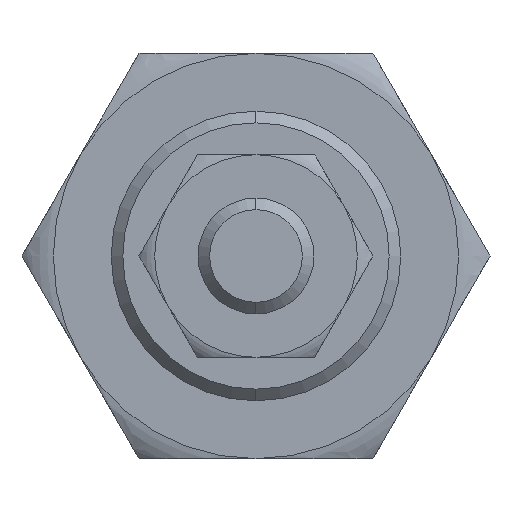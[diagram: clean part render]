
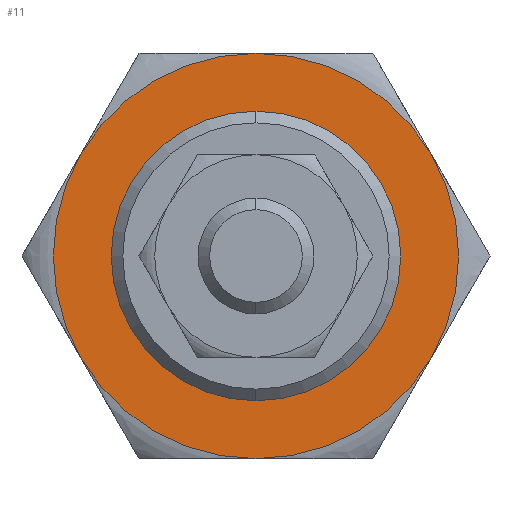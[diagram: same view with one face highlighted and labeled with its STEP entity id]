
A CAD part, left-side view. The second image highlights one B-rep face of the part: STEP entity #11.
In plain terms, the highlighted planar face has unit normal (-1, 0, 0).
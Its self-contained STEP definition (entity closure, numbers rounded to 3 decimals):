
#11 = ADVANCED_FACE ( 'NONE', ( #2926, #984 ), #1296, .F. ) ;
#35 = VERTEX_POINT ( 'NONE', #1704 ) ;
#92 = CARTESIAN_POINT ( 'NONE',  ( -1.5, 0., 0. ) ) ;
#101 = CARTESIAN_POINT ( 'NONE',  ( -1.5, 0., 0. ) ) ;
#105 = DIRECTION ( 'NONE',  ( 1., 0., 0. ) ) ;
#134 = DIRECTION ( 'NONE',  ( 1., 0., 0. ) ) ;
#329 = CARTESIAN_POINT ( 'NONE',  ( -1.5, -6.062, -3.5 ) ) ;
#364 = ORIENTED_EDGE ( 'NONE', *, *, #2441, .T. ) ;
#373 = DIRECTION ( 'NONE',  ( 0., 0., -1. ) ) ;
#483 = VERTEX_POINT ( 'NONE', #1534 ) ;
#491 = DIRECTION ( 'NONE',  ( 1., 0., 0. ) ) ;
#505 = EDGE_CURVE ( 'NONE', #2616, #3018, #2034, .T. ) ;
#552 = CIRCLE ( 'NONE', #2963, 7. ) ;
#618 = DIRECTION ( 'NONE',  ( 1., 0., 0. ) ) ;
#675 = DIRECTION ( 'NONE',  ( 1., 0., 0. ) ) ;
#723 = EDGE_CURVE ( 'NONE', #483, #844, #2339, .T. ) ;
#790 = VERTEX_POINT ( 'NONE', #329 ) ;
#832 = ORIENTED_EDGE ( 'NONE', *, *, #1873, .T. ) ;
#844 = VERTEX_POINT ( 'NONE', #2085 ) ;
#847 = CIRCLE ( 'NONE', #980, 7. ) ;
#884 = VERTEX_POINT ( 'NONE', #1258 ) ;
#886 = ORIENTED_EDGE ( 'NONE', *, *, #505, .F. ) ;
#895 = DIRECTION ( 'NONE',  ( 0., 0., 1. ) ) ;
#899 = CARTESIAN_POINT ( 'NONE',  ( -1.5, -6.062, 3.5 ) ) ;
#980 = AXIS2_PLACEMENT_3D ( 'NONE', #2886, #2834, #1307 ) ;
#983 = AXIS2_PLACEMENT_3D ( 'NONE', #1679, #1632, #373 ) ;
#984 = FACE_OUTER_BOUND ( 'NONE', #1324, .T. ) ;
#1007 = CIRCLE ( 'NONE', #1634, 7. ) ;
#1014 = CARTESIAN_POINT ( 'NONE',  ( -1.5, 0., 0. ) ) ;
#1116 = CARTESIAN_POINT ( 'NONE',  ( -1.5, 0., -7. ) ) ;
#1258 = CARTESIAN_POINT ( 'NONE',  ( -1.5, 6.062, 3.5 ) ) ;
#1296 = PLANE ( 'NONE',  #2369 ) ;
#1307 = DIRECTION ( 'NONE',  ( 0., 0., -1. ) ) ;
#1324 = EDGE_LOOP ( 'NONE', ( #886, #2345, #2716, #2479, #832, #2647 ) ) ;
#1344 = DIRECTION ( 'NONE',  ( 0., 0., -1. ) ) ;
#1359 = DIRECTION ( 'NONE',  ( 0., 0., -1. ) ) ;
#1386 = CARTESIAN_POINT ( 'NONE',  ( -1.5, 0., 0. ) ) ;
#1413 = AXIS2_PLACEMENT_3D ( 'NONE', #1386, #2496, #1344 ) ;
#1461 = EDGE_CURVE ( 'NONE', #35, #1928, #2397, .T. ) ;
#1467 = CARTESIAN_POINT ( 'NONE',  ( -1.5, 6.062, -3.5 ) ) ;
#1534 = CARTESIAN_POINT ( 'NONE',  ( -1.5, 0., 4.5 ) ) ;
#1632 = DIRECTION ( 'NONE',  ( 1., 0., 0. ) ) ;
#1634 = AXIS2_PLACEMENT_3D ( 'NONE', #2432, #675, #2569 ) ;
#1657 = CARTESIAN_POINT ( 'NONE',  ( -1.5, 0., 0. ) ) ;
#1679 = CARTESIAN_POINT ( 'NONE',  ( -1.5, 0., 0. ) ) ;
#1680 = CIRCLE ( 'NONE', #3003, 7. ) ;
#1704 = CARTESIAN_POINT ( 'NONE',  ( -1.5, 0., 7. ) ) ;
#1706 = AXIS2_PLACEMENT_3D ( 'NONE', #101, #618, #2360 ) ;
#1758 = EDGE_CURVE ( 'NONE', #1928, #790, #847, .T. ) ;
#1823 = CIRCLE ( 'NONE', #1413, 4.5 ) ;
#1873 = EDGE_CURVE ( 'NONE', #35, #884, #1680, .T. ) ;
#1928 = VERTEX_POINT ( 'NONE', #899 ) ;
#1961 = CARTESIAN_POINT ( 'NONE',  ( -1.5, 0., 0. ) ) ;
#1990 = DIRECTION ( 'NONE',  ( 0., 0., -1. ) ) ;
#2034 = CIRCLE ( 'NONE', #1706, 7. ) ;
#2046 = DIRECTION ( 'NONE',  ( -1., 0., 0. ) ) ;
#2076 = ORIENTED_EDGE ( 'NONE', *, *, #723, .T. ) ;
#2085 = CARTESIAN_POINT ( 'NONE',  ( -1.5, 0., -4.5 ) ) ;
#2339 = CIRCLE ( 'NONE', #983, 4.5 ) ;
#2345 = ORIENTED_EDGE ( 'NONE', *, *, #2786, .F. ) ;
#2360 = DIRECTION ( 'NONE',  ( 0., 0., -1. ) ) ;
#2364 = EDGE_CURVE ( 'NONE', #3018, #884, #1007, .T. ) ;
#2369 = AXIS2_PLACEMENT_3D ( 'NONE', #92, #134, #1990 ) ;
#2397 = CIRCLE ( 'NONE', #2923, 7. ) ;
#2432 = CARTESIAN_POINT ( 'NONE',  ( -1.5, 0., 0. ) ) ;
#2441 = EDGE_CURVE ( 'NONE', #844, #483, #1823, .T. ) ;
#2479 = ORIENTED_EDGE ( 'NONE', *, *, #1461, .F. ) ;
#2496 = DIRECTION ( 'NONE',  ( 1., 0., 0. ) ) ;
#2569 = DIRECTION ( 'NONE',  ( 0., 0., -1. ) ) ;
#2616 = VERTEX_POINT ( 'NONE', #1116 ) ;
#2647 = ORIENTED_EDGE ( 'NONE', *, *, #2364, .F. ) ;
#2716 = ORIENTED_EDGE ( 'NONE', *, *, #1758, .F. ) ;
#2764 = DIRECTION ( 'NONE',  ( 0., 0., -1. ) ) ;
#2786 = EDGE_CURVE ( 'NONE', #790, #2616, #552, .T. ) ;
#2834 = DIRECTION ( 'NONE',  ( 1., 0., 0. ) ) ;
#2852 = EDGE_LOOP ( 'NONE', ( #364, #2076 ) ) ;
#2886 = CARTESIAN_POINT ( 'NONE',  ( -1.5, 0., 0. ) ) ;
#2923 = AXIS2_PLACEMENT_3D ( 'NONE', #1014, #491, #2764 ) ;
#2926 = FACE_BOUND ( 'NONE', #2852, .T. ) ;
#2963 = AXIS2_PLACEMENT_3D ( 'NONE', #1961, #105, #1359 ) ;
#3003 = AXIS2_PLACEMENT_3D ( 'NONE', #1657, #2046, #895 ) ;
#3018 = VERTEX_POINT ( 'NONE', #1467 ) ;
